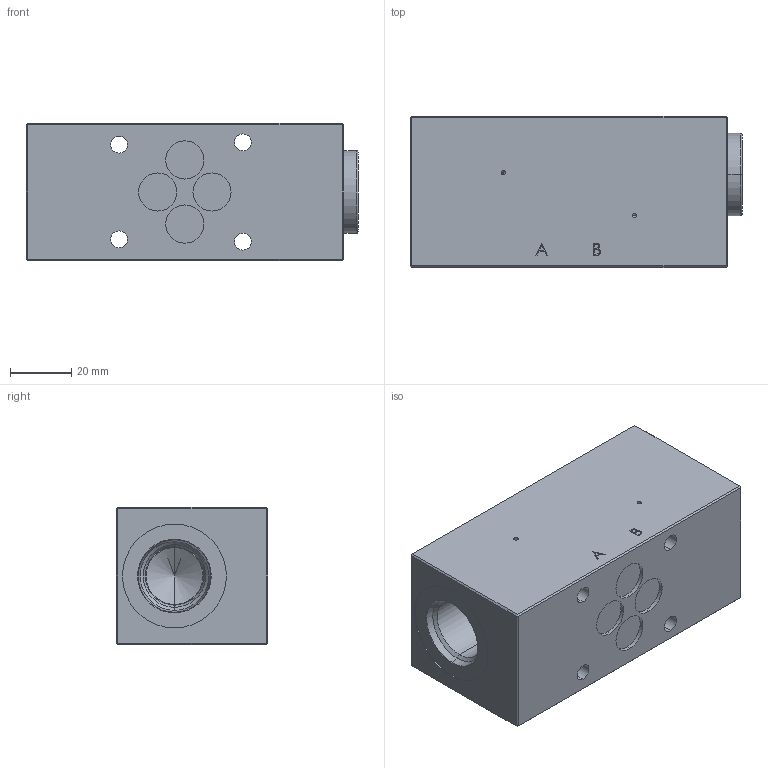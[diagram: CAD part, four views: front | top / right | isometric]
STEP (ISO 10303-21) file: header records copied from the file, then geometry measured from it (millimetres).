
FILE_DESCRIPTION (( 'STEP AP214' ), '1' );
FILE_NAME ('SV.SA06-AC_AO.STEP', '2021-06-17T12:21:57', ( '' ), ( '' ), 'SwSTEP 2.0', 'SolidWorks 2020', '' );
FILE_SCHEMA (( 'AUTOMOTIVE_DESIGN' ));
Length unit declared in the file: millimetre
Products named in the file (1): SV.SA06-AC_AO
Bounding box: 108.7 x 49.5 x 45 mm (x, y, z)
Volume: 212812.7 mm3; surface area: 31200.4 mm2
Topology: 1 solids, 1 shells, 148 faces, 342 edges, 201 vertices
Faces by surface type: plane 71, cylinder 40, cone 22, bspline 9, torus 6
Entity records: 6222 total; most frequent: CARTESIAN_POINT 1259, DIRECTION 688, ORIENTED_EDGE 656, EDGE_CURVE 328, AXIS2_PLACEMENT_3D 242, LINE 204, VECTOR 204, VERTEX_POINT 201
